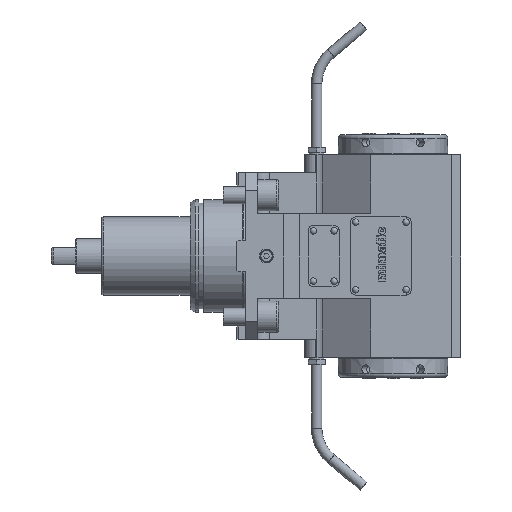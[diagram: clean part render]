
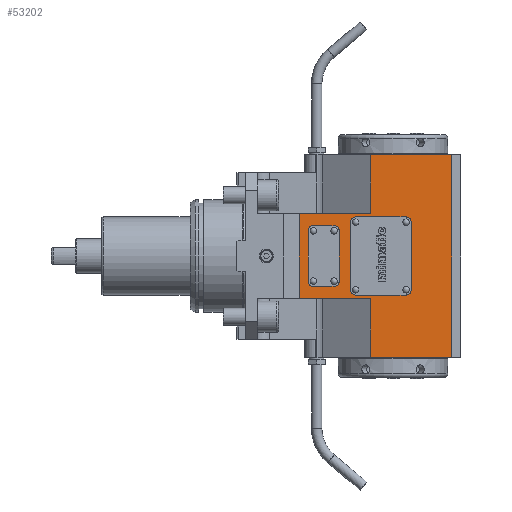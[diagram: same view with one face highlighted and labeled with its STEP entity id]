
A CAD part, front view. The second image highlights one B-rep face of the part: STEP entity #53202.
In plain terms, the highlighted planar face has unit normal (0, -1, 0) as drawn and (0, 1, 0) by its records, which use the part's own axes.
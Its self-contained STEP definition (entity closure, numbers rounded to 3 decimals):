
#18705=VECTOR('',#30006,1.);
#18723=VECTOR('',#30046,1.);
#18825=VECTOR('',#30236,1.);
#18827=VECTOR('',#30240,1.);
#18828=VECTOR('',#30241,1.);
#18829=VECTOR('',#30242,1.);
#18830=VECTOR('',#30243,1.);
#18831=VECTOR('',#30244,1.);
#18832=VECTOR('',#30247,1.);
#18833=VECTOR('',#30250,1.);
#18834=VECTOR('',#30253,1.);
#18835=VECTOR('',#30256,1.);
#18836=VECTOR('',#30257,1.);
#18837=VECTOR('',#30260,1.);
#18838=VECTOR('',#30263,1.);
#18839=VECTOR('',#30266,1.);
#19613=LINE('',#38713,#18705);
#19631=LINE('',#38768,#18723);
#19733=LINE('',#39012,#18825);
#19735=LINE('',#39016,#18827);
#19736=LINE('',#39018,#18828);
#19737=LINE('',#39020,#18829);
#19738=LINE('',#39021,#18830);
#19739=LINE('',#39022,#18831);
#19740=LINE('',#39027,#18832);
#19741=LINE('',#39031,#18833);
#19742=LINE('',#39035,#18834);
#19743=LINE('',#39038,#18835);
#19744=LINE('',#39041,#18836);
#19745=LINE('',#39045,#18837);
#19746=LINE('',#39049,#18838);
#19747=LINE('',#39053,#18839);
#21002=ORIENTED_EDGE('',*,*,#26094,.T.);
#21003=ORIENTED_EDGE('',*,*,#26221,.F.);
#21004=ORIENTED_EDGE('',*,*,#26222,.F.);
#21005=ORIENTED_EDGE('',*,*,#26223,.T.);
#21006=ORIENTED_EDGE('',*,*,#26224,.F.);
#21007=ORIENTED_EDGE('',*,*,#26219,.F.);
#21008=ORIENTED_EDGE('',*,*,#26067,.T.);
#21009=ORIENTED_EDGE('',*,*,#26225,.T.);
#21010=ORIENTED_EDGE('',*,*,#26226,.F.);
#21011=ORIENTED_EDGE('',*,*,#26227,.F.);
#21012=ORIENTED_EDGE('',*,*,#26228,.F.);
#21013=ORIENTED_EDGE('',*,*,#26229,.F.);
#21014=ORIENTED_EDGE('',*,*,#26230,.F.);
#21015=ORIENTED_EDGE('',*,*,#26231,.F.);
#21016=ORIENTED_EDGE('',*,*,#26232,.F.);
#21017=ORIENTED_EDGE('',*,*,#26233,.F.);
#21018=ORIENTED_EDGE('',*,*,#26234,.F.);
#21019=ORIENTED_EDGE('',*,*,#26235,.F.);
#21020=ORIENTED_EDGE('',*,*,#26236,.F.);
#21021=ORIENTED_EDGE('',*,*,#26237,.F.);
#21022=ORIENTED_EDGE('',*,*,#26238,.F.);
#21023=ORIENTED_EDGE('',*,*,#26239,.F.);
#21024=ORIENTED_EDGE('',*,*,#26240,.F.);
#21025=ORIENTED_EDGE('',*,*,#26241,.F.);
#24167=CIRCLE('',#51603,3.);
#24168=CIRCLE('',#51604,3.);
#24169=CIRCLE('',#51605,3.);
#24170=CIRCLE('',#51606,3.);
#24171=CIRCLE('',#51607,3.);
#24172=CIRCLE('',#51608,3.);
#24173=CIRCLE('',#51609,3.);
#24174=CIRCLE('',#51610,3.);
#24769=VERTEX_POINT('',#38710);
#24770=VERTEX_POINT('',#38712);
#24795=VERTEX_POINT('',#38765);
#24796=VERTEX_POINT('',#38767);
#24894=VERTEX_POINT('',#39011);
#24895=VERTEX_POINT('',#39015);
#24896=VERTEX_POINT('',#39017);
#24897=VERTEX_POINT('',#39019);
#24898=VERTEX_POINT('',#39023);
#24899=VERTEX_POINT('',#39024);
#24900=VERTEX_POINT('',#39026);
#24901=VERTEX_POINT('',#39028);
#24902=VERTEX_POINT('',#39030);
#24903=VERTEX_POINT('',#39032);
#24904=VERTEX_POINT('',#39034);
#24905=VERTEX_POINT('',#39036);
#24906=VERTEX_POINT('',#39039);
#24907=VERTEX_POINT('',#39040);
#24908=VERTEX_POINT('',#39042);
#24909=VERTEX_POINT('',#39044);
#24910=VERTEX_POINT('',#39046);
#24911=VERTEX_POINT('',#39048);
#24912=VERTEX_POINT('',#39050);
#24913=VERTEX_POINT('',#39052);
#26067=EDGE_CURVE('',#24770,#24769,#19613,.T.);
#26094=EDGE_CURVE('',#24796,#24795,#19631,.T.);
#26219=EDGE_CURVE('',#24770,#24894,#19733,.T.);
#26221=EDGE_CURVE('',#24895,#24795,#19735,.T.);
#26222=EDGE_CURVE('',#24896,#24895,#19736,.T.);
#26223=EDGE_CURVE('',#24896,#24897,#19737,.T.);
#26224=EDGE_CURVE('',#24894,#24897,#19738,.T.);
#26225=EDGE_CURVE('',#24769,#24796,#19739,.T.);
#26226=EDGE_CURVE('',#24898,#24899,#24167,.T.);
#26227=EDGE_CURVE('',#24900,#24898,#19740,.T.);
#26228=EDGE_CURVE('',#24901,#24900,#24168,.T.);
#26229=EDGE_CURVE('',#24902,#24901,#19741,.T.);
#26230=EDGE_CURVE('',#24903,#24902,#24169,.T.);
#26231=EDGE_CURVE('',#24904,#24903,#19742,.T.);
#26232=EDGE_CURVE('',#24905,#24904,#24170,.T.);
#26233=EDGE_CURVE('',#24899,#24905,#19743,.T.);
#26234=EDGE_CURVE('',#24906,#24907,#19744,.T.);
#26235=EDGE_CURVE('',#24908,#24906,#24171,.T.);
#26236=EDGE_CURVE('',#24909,#24908,#19745,.T.);
#26237=EDGE_CURVE('',#24910,#24909,#24172,.T.);
#26238=EDGE_CURVE('',#24911,#24910,#19746,.T.);
#26239=EDGE_CURVE('',#24912,#24911,#24173,.T.);
#26240=EDGE_CURVE('',#24913,#24912,#19747,.T.);
#26241=EDGE_CURVE('',#24907,#24913,#24174,.T.);
#27737=EDGE_LOOP('',(#21002,#21003,#21004,#21005,#21006,#21007,#21008,#21009));
#27738=EDGE_LOOP('',(#21010,#21011,#21012,#21013,#21014,#21015,#21016,#21017));
#27739=EDGE_LOOP('',(#21018,#21019,#21020,#21021,#21022,#21023,#21024,#21025));
#28745=FACE_BOUND('',#27737,.T.);
#28746=FACE_BOUND('',#27738,.T.);
#28747=FACE_BOUND('',#27739,.T.);
#30006=DIRECTION('',(46.743,0.,0.));
#30046=DIRECTION('',(-46.743,0.,0.));
#30236=DIRECTION('',(0.,0.,-34.));
#30238=DIRECTION('',(0.,1.,0.));
#30239=DIRECTION('',(1.,0.,0.));
#30240=DIRECTION('',(0.,0.,-34.));
#30241=DIRECTION('',(41.257,0.,0.));
#30242=DIRECTION('',(0.,0.,49.));
#30243=DIRECTION('',(-41.257,0.,0.));
#30244=DIRECTION('',(0.,0.,-117.));
#30245=DIRECTION('',(0.,1.,0.));
#30246=DIRECTION('',(0.,0.,3.));
#30247=DIRECTION('',(0.,0.,-39.));
#30248=DIRECTION('',(0.,1.,0.));
#30249=DIRECTION('',(0.,0.,3.));
#30250=DIRECTION('',(29.,0.,0.));
#30251=DIRECTION('',(0.,1.,0.));
#30252=DIRECTION('',(0.,0.,3.));
#30253=DIRECTION('',(0.,0.,39.));
#30254=DIRECTION('',(0.,1.,0.));
#30255=DIRECTION('',(0.,0.,3.));
#30256=DIRECTION('',(-29.,0.,0.));
#30257=DIRECTION('',(0.,0.,29.));
#30258=DIRECTION('',(0.,1.,0.));
#30259=DIRECTION('',(0.,0.,3.));
#30260=DIRECTION('',(-12.,0.,0.));
#30261=DIRECTION('',(0.,1.,0.));
#30262=DIRECTION('',(0.,0.,3.));
#30263=DIRECTION('',(0.,0.,-29.));
#30264=DIRECTION('',(0.,1.,0.));
#30265=DIRECTION('',(0.,0.,3.));
#30266=DIRECTION('',(12.,0.,0.));
#30267=DIRECTION('',(0.,1.,0.));
#30268=DIRECTION('',(0.,0.,3.));
#38710=CARTESIAN_POINT('',(959.215,275.51,0.972));
#38712=CARTESIAN_POINT('',(912.473,275.51,0.972));
#38713=CARTESIAN_POINT('',(912.473,275.51,0.972));
#38765=CARTESIAN_POINT('',(912.473,275.51,-116.028));
#38767=CARTESIAN_POINT('',(959.215,275.51,-116.028));
#38768=CARTESIAN_POINT('',(959.215,275.51,-116.028));
#39011=CARTESIAN_POINT('',(912.473,275.51,-33.028));
#39012=CARTESIAN_POINT('',(912.473,275.51,0.972));
#39014=CARTESIAN_POINT('',(959.215,275.51,-116.028));
#39015=CARTESIAN_POINT('',(912.473,275.51,-82.028));
#39016=CARTESIAN_POINT('',(912.473,275.51,-82.028));
#39017=CARTESIAN_POINT('',(871.215,275.51,-82.028));
#39018=CARTESIAN_POINT('',(871.215,275.51,-82.028));
#39019=CARTESIAN_POINT('',(871.215,275.51,-33.028));
#39020=CARTESIAN_POINT('',(871.215,275.51,-82.028));
#39021=CARTESIAN_POINT('',(912.473,275.51,-33.028));
#39022=CARTESIAN_POINT('',(959.215,275.51,0.972));
#39023=CARTESIAN_POINT('',(935.715,275.51,-77.028));
#39024=CARTESIAN_POINT('',(932.715,275.51,-80.028));
#39025=CARTESIAN_POINT('',(932.715,275.51,-77.028));
#39026=CARTESIAN_POINT('',(935.715,275.51,-38.028));
#39027=CARTESIAN_POINT('',(935.715,275.51,-38.028));
#39028=CARTESIAN_POINT('',(932.715,275.51,-35.028));
#39029=CARTESIAN_POINT('',(932.715,275.51,-38.028));
#39030=CARTESIAN_POINT('',(903.715,275.51,-35.028));
#39031=CARTESIAN_POINT('',(903.715,275.51,-35.028));
#39032=CARTESIAN_POINT('',(900.715,275.51,-38.028));
#39033=CARTESIAN_POINT('',(903.715,275.51,-38.028));
#39034=CARTESIAN_POINT('',(900.715,275.51,-77.028));
#39035=CARTESIAN_POINT('',(900.715,275.51,-77.028));
#39036=CARTESIAN_POINT('',(903.715,275.51,-80.028));
#39037=CARTESIAN_POINT('',(903.715,275.51,-77.028));
#39038=CARTESIAN_POINT('',(932.715,275.51,-80.028));
#39039=CARTESIAN_POINT('',(876.215,275.51,-72.028));
#39040=CARTESIAN_POINT('',(876.215,275.51,-43.028));
#39041=CARTESIAN_POINT('',(876.215,275.51,-72.028));
#39042=CARTESIAN_POINT('',(879.215,275.51,-75.028));
#39043=CARTESIAN_POINT('',(879.215,275.51,-72.028));
#39044=CARTESIAN_POINT('',(891.215,275.51,-75.028));
#39045=CARTESIAN_POINT('',(891.215,275.51,-75.028));
#39046=CARTESIAN_POINT('',(894.215,275.51,-72.028));
#39047=CARTESIAN_POINT('',(891.215,275.51,-72.028));
#39048=CARTESIAN_POINT('',(894.215,275.51,-43.028));
#39049=CARTESIAN_POINT('',(894.215,275.51,-43.028));
#39050=CARTESIAN_POINT('',(891.215,275.51,-40.028));
#39051=CARTESIAN_POINT('',(891.215,275.51,-43.028));
#39052=CARTESIAN_POINT('',(879.215,275.51,-40.028));
#39053=CARTESIAN_POINT('',(879.215,275.51,-40.028));
#39054=CARTESIAN_POINT('',(879.215,275.51,-43.028));
#51602=AXIS2_PLACEMENT_3D('',#39014,#30238,#30239);
#51603=AXIS2_PLACEMENT_3D('',#39025,#30245,#30246);
#51604=AXIS2_PLACEMENT_3D('',#39029,#30248,#30249);
#51605=AXIS2_PLACEMENT_3D('',#39033,#30251,#30252);
#51606=AXIS2_PLACEMENT_3D('',#39037,#30254,#30255);
#51607=AXIS2_PLACEMENT_3D('',#39043,#30258,#30259);
#51608=AXIS2_PLACEMENT_3D('',#39047,#30261,#30262);
#51609=AXIS2_PLACEMENT_3D('',#39051,#30264,#30265);
#51610=AXIS2_PLACEMENT_3D('',#39054,#30267,#30268);
#52746=PLANE('',#51602);
#53202=ADVANCED_FACE('',(#28745,#28746,#28747),#52746,.T.);
